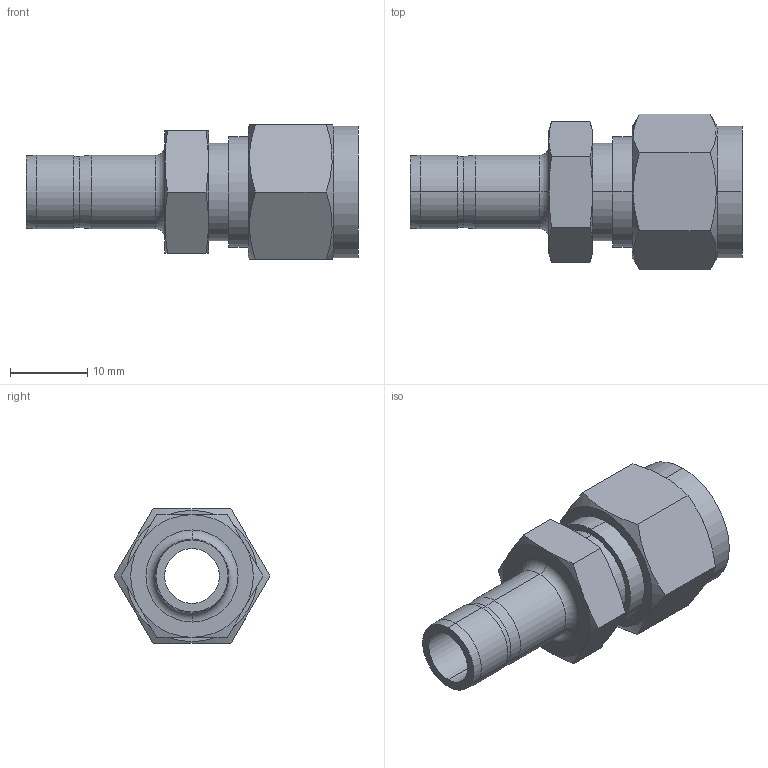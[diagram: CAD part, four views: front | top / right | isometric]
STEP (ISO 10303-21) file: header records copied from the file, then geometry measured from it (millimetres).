
FILE_DESCRIPTION (( 'STEP AP203' ), '1' );
FILE_NAME ('DRE06-06 SS.STEP', '2009-09-08T08:37:57', ( ' ' ), ( '' ), 'SwSTEP 2.0', 'SolidWorks 2008', '' );
FILE_SCHEMA (( 'CONFIG_CONTROL_DESIGN' ));
Length unit declared in the file: millimetre
Products named in the file (1): DRE06-06 SS
Bounding box: 43 x 20.16 x 17.46 mm (x, y, z)
Volume: 4614.5 mm3; surface area: 3565.5 mm2
Topology: 1 solids, 1 shells, 59 faces, 130 edges, 78 vertices
Faces by surface type: cone 22, plane 19, cylinder 16, torus 2
Entity records: 1825 total; most frequent: CARTESIAN_POINT 484, DIRECTION 262, ORIENTED_EDGE 260, EDGE_CURVE 130, AXIS2_PLACEMENT_3D 112, VERTEX_POINT 78, EDGE_LOOP 66, FACE_OUTER_BOUND 59
